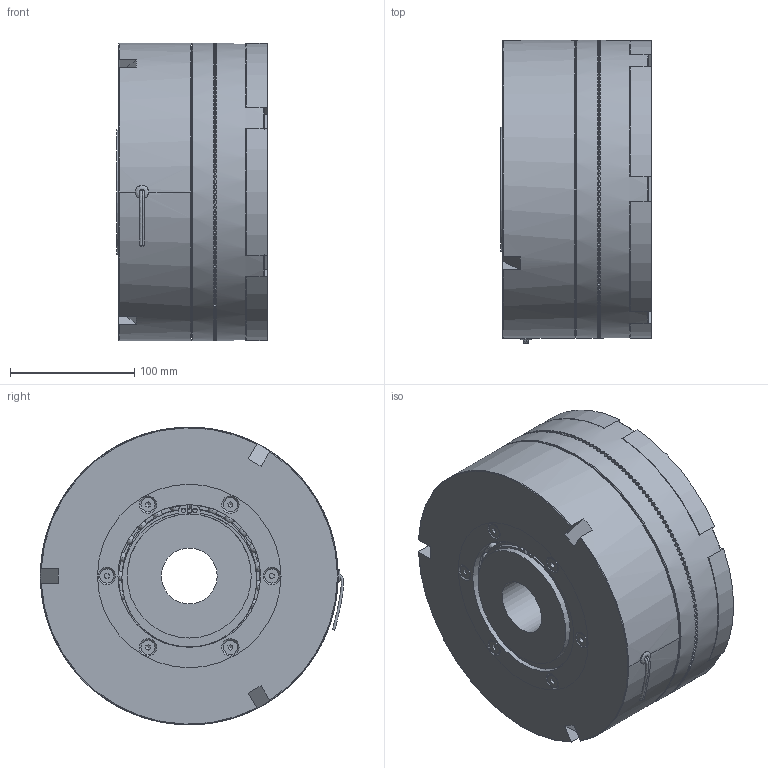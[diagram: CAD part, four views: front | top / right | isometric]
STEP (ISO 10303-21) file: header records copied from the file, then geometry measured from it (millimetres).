
FILE_DESCRIPTION(/* description */ ('','CAx-IF Rec.Pracs.---Representation and Presentation of Product Manufacturing Information (PMI)---4.0---2014-10-13'),/* implementation_level */ '2;1');
FILE_NAME(/* name */ 'X:\INVENTOR\DISEGNI\07_Innesti_Elettmag_a_Dentini\07_05 ESB_Z\07_05_240_01 ESB240_Z\07_05_240_01 ESB240_Z@STEP.stp',/* time_stamp */ '2018-02-05T08:47:22+01:00',/* author */ ('stefano'),/* organization */ (''),/* preprocessor_version */ 'ST-DEVELOPER v17',/* originating_system */ 'Autodesk Inventor 2018',/* authorisation */ '');
FILE_SCHEMA (('AP242_MANAGED_MODEL_BASED_3D_ENGINEERING_MIM_LF { 1 0 10303 442 1 1 4 }'));
Products named in the file (1): 07_05_240_01 ESB240_Z_Substitute_1
Bounding box: 121.5 x 244.44 x 240 mm (x, y, z)
Volume: 4538004.3 mm3; surface area: 471044.1 mm2
Topology: 2 solids, 2 shells, 1992 faces, 6062 edges, 4044 vertices
Faces by surface type: plane 1704, cylinder 173, torus 54, cone 35, sphere 23, bspline 3
Full cylindrical faces by diameter (mm): 3.5 x2, 4 x3, 4.917 x3, 7.9 x3, 8.5 x3, 9 x52, 11 x1, 11.34 x6, 12 x3, 13 x3, 45 x1, 96.5 x1, 100 x3, 106.5 x1, 108 x2, 110 x1, 112 x1, 115 x1, 117 x2, 118 x1, 124 x1, 125 x2, 130 x1, 169 x1, 170 x1, 194 x1, 202 x1, 220 x1, 222 x1, 224 x1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
Entity records: 72773 total; most frequent: CARTESIAN_POINT 15266, DIRECTION 13279, ORIENTED_EDGE 12016, EDGE_CURVE 6008, AXIS2_PLACEMENT_3D 5561, VERTEX_POINT 4044, EDGE_LOOP 2202, LINE 2157
